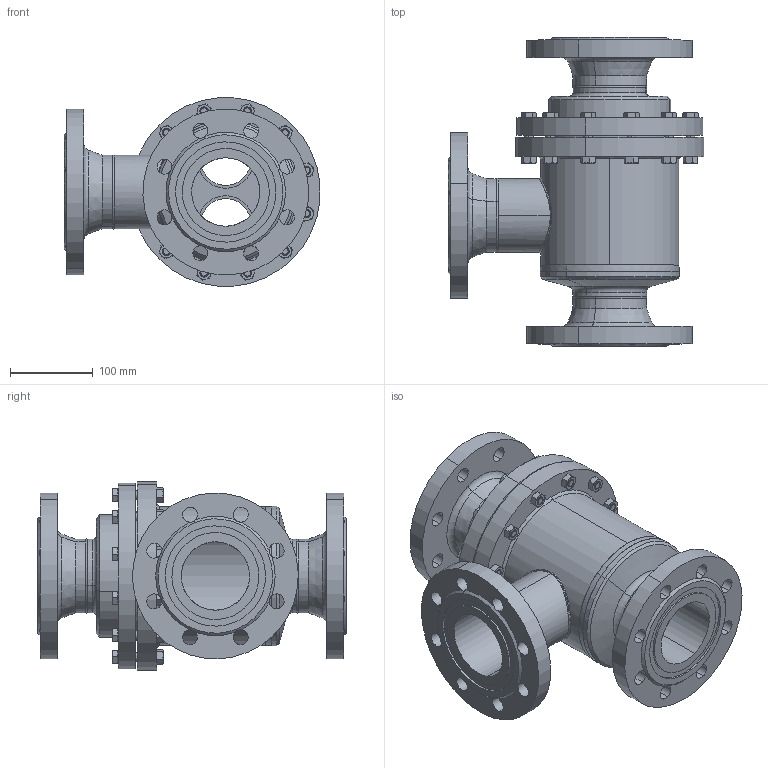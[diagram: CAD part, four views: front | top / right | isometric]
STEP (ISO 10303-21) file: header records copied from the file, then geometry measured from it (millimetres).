
FILE_DESCRIPTION (( 'STEP AP214' ), '1' );
FILE_NAME ('TR47020B18-DN80_DIN_PS25.STEP', '2005-08-10T11:25:07', ( 'Herr Grams' ), ( 'AWP GmbH' ), 'SwSTEP 2.0', 'SolidWorks 2002296', '' );
FILE_SCHEMA (( 'AUTOMOTIVE_DESIGN' ));
Length unit declared in the file: millimetre
Products named in the file (21): TR47020B18-DN80_DIN_PS25; TR47000B18-DN80_R1_PS25_Standard; Andruckplatte47050-17-DN65-80_Standard; Deckel47000B18_DN80_PS25_R1_Standard; Führungsring47050-17-DN65-80_Standard; Geh-kpl47000B18-DN80_PS25_R1_Standard; Geh47000E18_DN80_PS40_R1_Standard; Kopfring47000E17_DN65-80_PS40_Standard; RohrstutzA47000E18-DN80_PS40_R1_Standard; Boden47000E_DN65-100_PS40_DN 80; bead18-4_Standard; Kehlnaht18-2_Standard; Kehlnaht18-3_Standard; bead18-1_Standard; loser Flansch47000E17_DN65-80_PS40_Standard; Sechskantschraube-DIN933-M10x55_M10x55; Sechskantmutter-DIN934_M10; Flansch-DIN-Nut_PS40_DIN-Flansch-DN080_PS40-Nut; TR80-3_Standard; TR80-2_Standard; TR80-1_Standard
Assembly tree (44 placements, depth 4):
  TR47020B18-DN80_DIN_PS25
    Flansch-DIN-Nut_PS40_DIN-Flansch-DN080_PS40-Nut  x3
    TR80-1_Standard
    TR80-2_Standard
    TR47000B18-DN80_R1_PS25_Standard
      Sechskantschraube-DIN933-M10x55_M10x55  x12
      Sechskantmutter-DIN934_M10  x12
      Führungsring47050-17-DN65-80_Standard
      Deckel47000B18_DN80_PS25_R1_Standard
      Geh-kpl47000B18-DN80_PS25_R1_Standard
        Kehlnaht18-3_Standard
        RohrstutzA47000E18-DN80_PS40_R1_Standard
        Kehlnaht18-2_Standard
        Geh47000E18_DN80_PS40_R1_Standard
        bead18-4_Standard
        bead18-1_Standard
        Boden47000E_DN65-100_PS40_DN 80
        Kopfring47000E17_DN65-80_PS40_Standard
      loser Flansch47000E17_DN65-80_PS40_Standard
      Andruckplatte47050-17-DN65-80_Standard
    TR80-3_Standard
Bounding box: 308.57 x 372.5 x 227.13 mm (x, y, z)
Volume: 4082036.8 mm3; surface area: 936352.1 mm2
Topology: 42 solids, 42 shells, 1355 faces, 3444 edges, 2180 vertices
Faces by surface type: cylinder 628, cone 400, plane 269, bspline 44, torus 14
Entity records: 32769 total; most frequent: CARTESIAN_POINT 23633, DIRECTION 1743, ORIENTED_EDGE 1680, EDGE_CURVE 840, AXIS2_PLACEMENT_3D 751, VERTEX_POINT 536, EDGE_LOOP 452, CIRCLE 380
